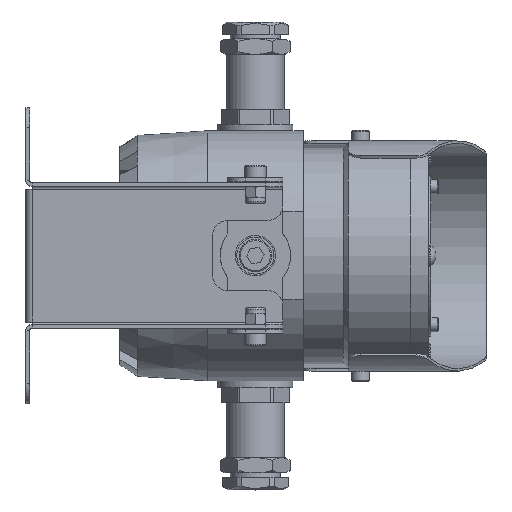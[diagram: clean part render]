
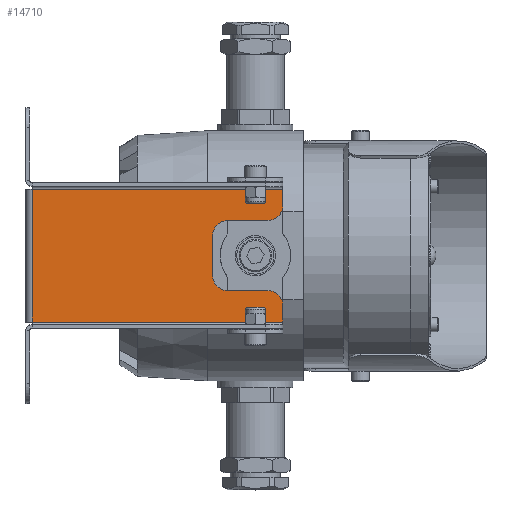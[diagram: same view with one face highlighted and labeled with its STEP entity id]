
A CAD part, top view. The second image highlights one B-rep face of the part: STEP entity #14710.
In plain terms, the highlighted planar face has unit normal (0, 0, 1).
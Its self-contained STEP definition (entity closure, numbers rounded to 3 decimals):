
#15 = ORIENTED_EDGE ( 'NONE', *, *, #18544, .T. ) ;
#22 = LINE ( 'NONE', #3172, #3712 ) ;
#410 = CARTESIAN_POINT ( 'NONE',  ( -24., 26.5, 68.5 ) ) ;
#499 = EDGE_CURVE ( 'NONE', #2811, #10215, #15693, .T. ) ;
#550 = CIRCLE ( 'NONE', #13561, 6. ) ;
#655 = CARTESIAN_POINT ( 'NONE',  ( -124., -27.5, 68.5 ) ) ;
#819 = CARTESIAN_POINT ( 'NONE',  ( -24., -27.5, 68.5 ) ) ;
#1070 = ORIENTED_EDGE ( 'NONE', *, *, #499, .F. ) ;
#1373 = CARTESIAN_POINT ( 'NONE',  ( -124., 26.5, 68.5 ) ) ;
#1553 = CARTESIAN_POINT ( 'NONE',  ( -24., -20., 68.5 ) ) ;
#1563 = DIRECTION ( 'NONE',  ( -1., 0., 0. ) ) ;
#1653 = DIRECTION ( 'NONE',  ( 1., 0., 0. ) ) ;
#1951 = VECTOR ( 'NONE', #19119, 1000. ) ;
#2094 = VECTOR ( 'NONE', #10512, 1000. ) ;
#2178 = DIRECTION ( 'NONE',  ( 0., 1., 0. ) ) ;
#2408 = DIRECTION ( 'NONE',  ( 0., -1., 0. ) ) ;
#2449 = CARTESIAN_POINT ( 'NONE',  ( -124., -26.5, 68.5 ) ) ;
#2459 = EDGE_CURVE ( 'NONE', #10485, #15766, #19067, .T. ) ;
#2774 = VECTOR ( 'NONE', #2408, 1000. ) ;
#2811 = VERTEX_POINT ( 'NONE', #1373 ) ;
#2847 = DIRECTION ( 'NONE',  ( 0., 0., -1. ) ) ;
#3011 = EDGE_CURVE ( 'NONE', #7943, #7099, #18569, .T. ) ;
#3172 = CARTESIAN_POINT ( 'NONE',  ( -52., 0., 68.5 ) ) ;
#3217 = ORIENTED_EDGE ( 'NONE', *, *, #10779, .T. ) ;
#3236 = DIRECTION ( 'NONE',  ( 0., 1., 0. ) ) ;
#3358 = PLANE ( 'NONE',  #4995 ) ;
#3426 = VECTOR ( 'NONE', #18044, 1000. ) ;
#3569 = ORIENTED_EDGE ( 'NONE', *, *, #4940, .T. ) ;
#3582 = CARTESIAN_POINT ( 'NONE',  ( -52., -8., 68.5 ) ) ;
#3599 = VERTEX_POINT ( 'NONE', #12071 ) ;
#3694 = DIRECTION ( 'NONE',  ( 0., 0., -1. ) ) ;
#3712 = VECTOR ( 'NONE', #3236, 1000. ) ;
#3901 = CARTESIAN_POINT ( 'NONE',  ( -24., -26.5, 68.5 ) ) ;
#4201 = VERTEX_POINT ( 'NONE', #17940 ) ;
#4940 = EDGE_CURVE ( 'NONE', #15766, #5130, #22, .T. ) ;
#4995 = AXIS2_PLACEMENT_3D ( 'NONE', #11198, #17542, #8082 ) ;
#5130 = VERTEX_POINT ( 'NONE', #19650 ) ;
#5299 = EDGE_LOOP ( 'NONE', ( #8863, #11290, #11264, #17994, #3569, #3217, #15, #14988, #14697, #1070, #8116, #10503 ) ) ;
#5426 = CARTESIAN_POINT ( 'NONE',  ( -124., -14., 68.5 ) ) ;
#6535 = LINE ( 'NONE', #655, #18614 ) ;
#6588 = EDGE_CURVE ( 'NONE', #15675, #10485, #7603, .T. ) ;
#6790 = AXIS2_PLACEMENT_3D ( 'NONE', #13114, #3694, #14722 ) ;
#7099 = VERTEX_POINT ( 'NONE', #2449 ) ;
#7216 = CARTESIAN_POINT ( 'NONE',  ( -30., 20., 68.5 ) ) ;
#7603 = LINE ( 'NONE', #5426, #3426 ) ;
#7943 = VERTEX_POINT ( 'NONE', #11287 ) ;
#8082 = DIRECTION ( 'NONE',  ( -1., 0., 0. ) ) ;
#8116 = ORIENTED_EDGE ( 'NONE', *, *, #8721, .F. ) ;
#8721 = EDGE_CURVE ( 'NONE', #7099, #2811, #6535, .T. ) ;
#8792 = DIRECTION ( 'NONE',  ( -1., 0., 0. ) ) ;
#8863 = ORIENTED_EDGE ( 'NONE', *, *, #15955, .F. ) ;
#8930 = EDGE_CURVE ( 'NONE', #10215, #4201, #18848, .T. ) ;
#9674 = CARTESIAN_POINT ( 'NONE',  ( -124., 14., 68.5 ) ) ;
#10215 = VERTEX_POINT ( 'NONE', #410 ) ;
#10264 = FACE_OUTER_BOUND ( 'NONE', #5299, .T. ) ;
#10485 = VERTEX_POINT ( 'NONE', #10653 ) ;
#10503 = ORIENTED_EDGE ( 'NONE', *, *, #3011, .F. ) ;
#10512 = DIRECTION ( 'NONE',  ( 0., -1., 0. ) ) ;
#10618 = EDGE_CURVE ( 'NONE', #20412, #15675, #550, .T. ) ;
#10653 = CARTESIAN_POINT ( 'NONE',  ( -46., -14., 68.5 ) ) ;
#10779 = EDGE_CURVE ( 'NONE', #5130, #3599, #18531, .T. ) ;
#10985 = DIRECTION ( 'NONE',  ( 0., 0., 1. ) ) ;
#11150 = CARTESIAN_POINT ( 'NONE',  ( -30., -14., 68.5 ) ) ;
#11198 = CARTESIAN_POINT ( 'NONE',  ( -124., 0., 68.5 ) ) ;
#11264 = ORIENTED_EDGE ( 'NONE', *, *, #6588, .T. ) ;
#11287 = CARTESIAN_POINT ( 'NONE',  ( -24., -26.5, 68.5 ) ) ;
#11290 = ORIENTED_EDGE ( 'NONE', *, *, #10618, .T. ) ;
#11939 = AXIS2_PLACEMENT_3D ( 'NONE', #13878, #2847, #16344 ) ;
#12071 = CARTESIAN_POINT ( 'NONE',  ( -46., 14., 68.5 ) ) ;
#12135 = DIRECTION ( 'NONE',  ( -1., 0., 0. ) ) ;
#13114 = CARTESIAN_POINT ( 'NONE',  ( -46., 8., 68.5 ) ) ;
#13513 = EDGE_CURVE ( 'NONE', #16633, #4201, #14760, .T. ) ;
#13561 = AXIS2_PLACEMENT_3D ( 'NONE', #20446, #10985, #1563 ) ;
#13878 = CARTESIAN_POINT ( 'NONE',  ( -46., -8., 68.5 ) ) ;
#14405 = VECTOR ( 'NONE', #12135, 1000. ) ;
#14687 = CARTESIAN_POINT ( 'NONE',  ( -30., 14., 68.5 ) ) ;
#14697 = ORIENTED_EDGE ( 'NONE', *, *, #8930, .F. ) ;
#14710 = ADVANCED_FACE ( 'NONE', ( #10264 ), #3358, .F. ) ;
#14722 = DIRECTION ( 'NONE',  ( -1., 0., 0. ) ) ;
#14727 = VECTOR ( 'NONE', #1653, 1000. ) ;
#14760 = CIRCLE ( 'NONE', #18555, 6. ) ;
#14988 = ORIENTED_EDGE ( 'NONE', *, *, #13513, .T. ) ;
#15334 = LINE ( 'NONE', #819, #2774 ) ;
#15675 = VERTEX_POINT ( 'NONE', #11150 ) ;
#15693 = LINE ( 'NONE', #15775, #14727 ) ;
#15766 = VERTEX_POINT ( 'NONE', #3582 ) ;
#15775 = CARTESIAN_POINT ( 'NONE',  ( -124., 26.5, 68.5 ) ) ;
#15955 = EDGE_CURVE ( 'NONE', #20412, #7943, #15334, .T. ) ;
#16344 = DIRECTION ( 'NONE',  ( -1., 0., 0. ) ) ;
#16633 = VERTEX_POINT ( 'NONE', #14687 ) ;
#17542 = DIRECTION ( 'NONE',  ( 0., 0., -1. ) ) ;
#17940 = CARTESIAN_POINT ( 'NONE',  ( -24., 20., 68.5 ) ) ;
#17994 = ORIENTED_EDGE ( 'NONE', *, *, #2459, .T. ) ;
#18044 = DIRECTION ( 'NONE',  ( -1., 0., 0. ) ) ;
#18225 = LINE ( 'NONE', #9674, #1951 ) ;
#18259 = DIRECTION ( 'NONE',  ( 0., 0., 1. ) ) ;
#18369 = CARTESIAN_POINT ( 'NONE',  ( -24., -27.5, 68.5 ) ) ;
#18531 = CIRCLE ( 'NONE', #6790, 6. ) ;
#18544 = EDGE_CURVE ( 'NONE', #3599, #16633, #18225, .T. ) ;
#18555 = AXIS2_PLACEMENT_3D ( 'NONE', #7216, #18259, #8792 ) ;
#18569 = LINE ( 'NONE', #3901, #14405 ) ;
#18614 = VECTOR ( 'NONE', #2178, 1000. ) ;
#18848 = LINE ( 'NONE', #18369, #2094 ) ;
#19067 = CIRCLE ( 'NONE', #11939, 6. ) ;
#19119 = DIRECTION ( 'NONE',  ( 1., 0., 0. ) ) ;
#19650 = CARTESIAN_POINT ( 'NONE',  ( -52., 8., 68.5 ) ) ;
#20412 = VERTEX_POINT ( 'NONE', #1553 ) ;
#20446 = CARTESIAN_POINT ( 'NONE',  ( -30., -20., 68.5 ) ) ;
